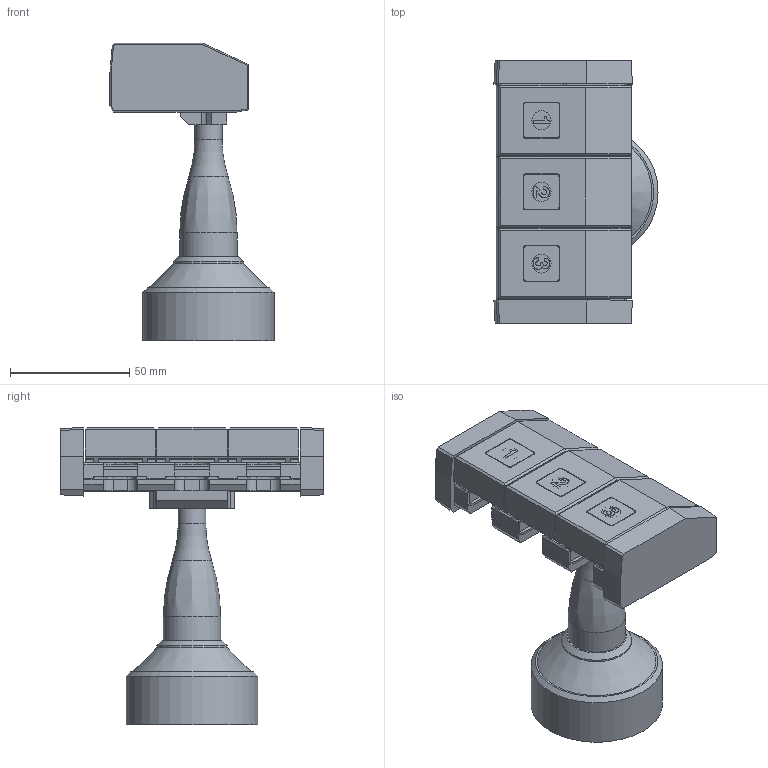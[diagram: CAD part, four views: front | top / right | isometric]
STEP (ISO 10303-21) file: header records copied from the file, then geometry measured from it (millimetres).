
FILE_DESCRIPTION(/* description */ (''),/* implementation_level */ '2;1');
FILE_NAME(/* name */ 'LA-1371-0304-0B-A-STEP.stp',/* time_stamp */ '2019-10-29T13:05:47+00:00',/* author */ (''),/* organization */ (''),/* preprocessor_version */ 'ST-DEVELOPER v16.7',/* originating_system */ 'SIEMENS PLM Software NX 12.0',/* authorisation */ '');
FILE_SCHEMA (('AUTOMOTIVE_DESIGN { 1 0 10303 214 3 1 1 1 }'));
Length unit declared in the file: millimetre
Products named in the file (1): sh131E64794B4oa1
Bounding box: 68.75 x 110 x 124.5 mm (x, y, z)
Volume: 164172.4 mm3; surface area: 70620.8 mm2
Topology: 1 solids, 4 shells, 887 faces, 2620 edges, 1709 vertices
Faces by surface type: plane 770, cylinder 112, cone 3, torus 1, bspline 1
Full cylindrical faces by diameter (mm): 8 x3, 11.5 x1, 23.95 x1, 29.405 x1, 55 x1
Entity records: 29194 total; most frequent: CARTESIAN_POINT 5254, ORIENTED_EDGE 5210, DIRECTION 4622, EDGE_CURVE 2605, LINE 2346, VECTOR 2346, VERTEX_POINT 1706, AXIS2_PLACEMENT_3D 1138
